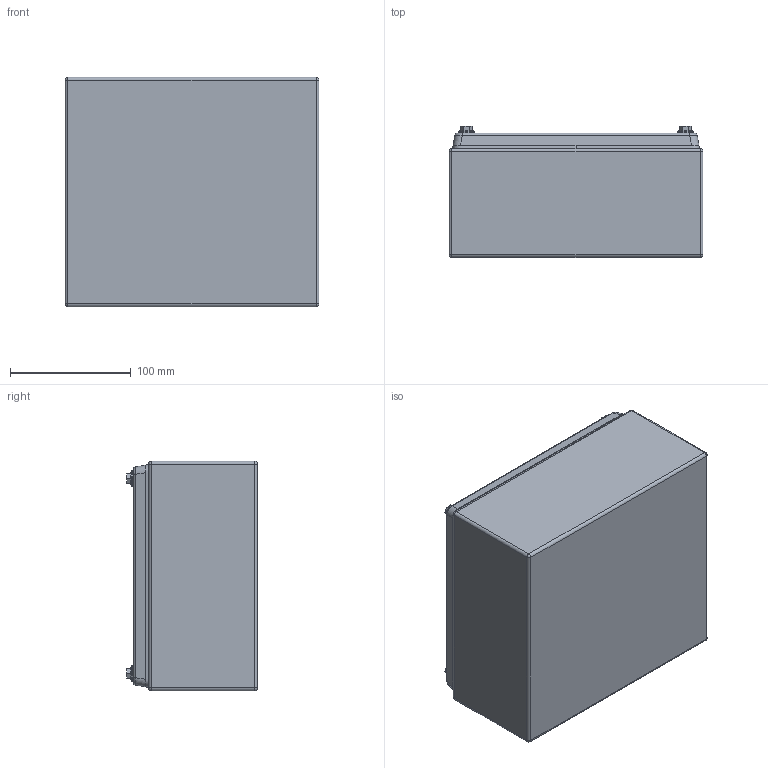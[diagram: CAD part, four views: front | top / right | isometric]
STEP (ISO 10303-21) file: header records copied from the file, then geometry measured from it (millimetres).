
FILE_DESCRIPTION (( 'STEP AP203' ), '1' );
FILE_NAME ('PEH09-316A.STEP', '2021-02-23T15:23:38', ( '' ), ( '' ), 'SwSTEP 2.0', 'SolidWorks 2020', '' );
FILE_SCHEMA (( 'CONFIG_CONTROL_DESIGN' ));
Length unit declared in the file: millimetre
Products named in the file (1): PEH09-316A
Bounding box: 210 x 108.3 x 190 mm (x, y, z)
Volume: 297869.8 mm3; surface area: 403202.9 mm2
Topology: 20 solids, 20 shells, 555 faces, 1393 edges, 904 vertices
Faces by surface type: plane 296, cylinder 196, bspline 27, cone 20, sphere 16
Entity records: 18916 total; most frequent: CARTESIAN_POINT 5340, DIRECTION 2814, ORIENTED_EDGE 2754, EDGE_CURVE 1377, AXIS2_PLACEMENT_3D 970, VERTEX_POINT 904, LINE 874, VECTOR 874
